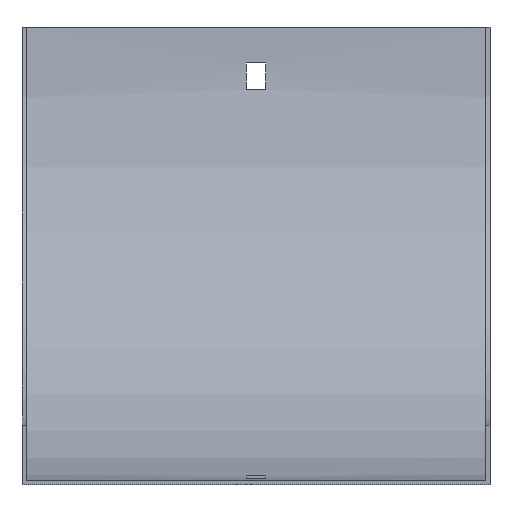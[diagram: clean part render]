
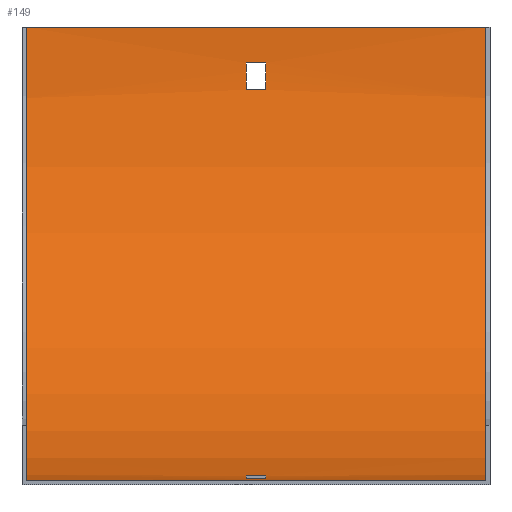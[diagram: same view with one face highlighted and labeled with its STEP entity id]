
A CAD part, front view. The second image highlights one B-rep face of the part: STEP entity #149.
In plain terms, the highlighted cylindrical face has radius 152 mm (diameter 304 mm), a partial arc.
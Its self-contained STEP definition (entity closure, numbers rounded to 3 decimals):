
#4 = CARTESIAN_POINT ( 'NONE',  ( -3.25, -153.5, 0. ) ) ;
#5 = VERTEX_POINT ( 'NONE', #164 ) ;
#15 = EDGE_CURVE ( 'NONE', #539, #490, #204, .T. ) ;
#21 = CARTESIAN_POINT ( 'NONE',  ( 78.5, -1.974, -12. ) ) ;
#22 = CARTESIAN_POINT ( 'NONE',  ( -77., -1.5, 0. ) ) ;
#26 = VERTEX_POINT ( 'NONE', #74 ) ;
#28 = CARTESIAN_POINT ( 'NONE',  ( 77., -153.5, -152. ) ) ;
#34 = FACE_OUTER_BOUND ( 'NONE', #506, .T. ) ;
#46 = FACE_BOUND ( 'NONE', #334, .T. ) ;
#49 = ORIENTED_EDGE ( 'NONE', *, *, #541, .T. ) ;
#55 = CIRCLE ( 'NONE', #288, 152. ) ;
#56 = EDGE_LOOP ( 'NONE', ( #254, #221, #283, #49 ) ) ;
#61 = DIRECTION ( 'NONE',  ( 1., 0., 0. ) ) ;
#68 = ORIENTED_EDGE ( 'NONE', *, *, #15, .F. ) ;
#69 = CARTESIAN_POINT ( 'NONE',  ( -3.25, -153.5, 0. ) ) ;
#74 = CARTESIAN_POINT ( 'NONE',  ( 3.25, -132.5, -150.542 ) ) ;
#80 = CARTESIAN_POINT ( 'NONE',  ( -3.25, -1.974, -12. ) ) ;
#87 = DIRECTION ( 'NONE',  ( 0., 0., 1. ) ) ;
#110 = CARTESIAN_POINT ( 'NONE',  ( 78.5, -2.958, -21. ) ) ;
#112 = AXIS2_PLACEMENT_3D ( 'NONE', #4, #548, #459 ) ;
#113 = CARTESIAN_POINT ( 'NONE',  ( 3.25, -153.5, 0. ) ) ;
#116 = DIRECTION ( 'NONE',  ( -1., 0., 0. ) ) ;
#117 = ORIENTED_EDGE ( 'NONE', *, *, #157, .T. ) ;
#120 = DIRECTION ( 'NONE',  ( 1., 0., 0. ) ) ;
#122 = CIRCLE ( 'NONE', #606, 152. ) ;
#123 = ORIENTED_EDGE ( 'NONE', *, *, #390, .T. ) ;
#131 = DIRECTION ( 'NONE',  ( 0., 0., 1. ) ) ;
#148 = CARTESIAN_POINT ( 'NONE',  ( 3.25, -141.5, -151.526 ) ) ;
#149 = ADVANCED_FACE ( 'NONE', ( #46, #34, #312 ), #408, .F. ) ;
#157 = EDGE_CURVE ( 'NONE', #539, #585, #421, .T. ) ;
#159 = LINE ( 'NONE', #21, #586 ) ;
#163 = DIRECTION ( 'NONE',  ( 0., 0., -1. ) ) ;
#164 = CARTESIAN_POINT ( 'NONE',  ( -3.25, -141.5, -151.526 ) ) ;
#165 = DIRECTION ( 'NONE',  ( 0., 0., 1. ) ) ;
#194 = CIRCLE ( 'NONE', #112, 152. ) ;
#202 = VERTEX_POINT ( 'NONE', #148 ) ;
#204 = LINE ( 'NONE', #399, #264 ) ;
#206 = DIRECTION ( 'NONE',  ( 0., 0., -1. ) ) ;
#213 = VECTOR ( 'NONE', #61, 1000. ) ;
#220 = CARTESIAN_POINT ( 'NONE',  ( 78.5, -141.5, -151.526 ) ) ;
#221 = ORIENTED_EDGE ( 'NONE', *, *, #553, .T. ) ;
#225 = DIRECTION ( 'NONE',  ( -1., 0., 0. ) ) ;
#226 = DIRECTION ( 'NONE',  ( -1., 0., 0. ) ) ;
#233 = DIRECTION ( 'NONE',  ( 1., 0., 0. ) ) ;
#237 = CARTESIAN_POINT ( 'NONE',  ( 78.5, -153.5, 0. ) ) ;
#254 = ORIENTED_EDGE ( 'NONE', *, *, #569, .T. ) ;
#257 = LINE ( 'NONE', #220, #498 ) ;
#259 = CARTESIAN_POINT ( 'NONE',  ( 77., -1.5, 0. ) ) ;
#264 = VECTOR ( 'NONE', #543, 1000. ) ;
#273 = CARTESIAN_POINT ( 'NONE',  ( 77., -1.5, 0. ) ) ;
#275 = VECTOR ( 'NONE', #226, 1000. ) ;
#283 = ORIENTED_EDGE ( 'NONE', *, *, #380, .T. ) ;
#288 = AXIS2_PLACEMENT_3D ( 'NONE', #493, #305, #163 ) ;
#293 = VERTEX_POINT ( 'NONE', #297 ) ;
#297 = CARTESIAN_POINT ( 'NONE',  ( 3.25, -1.974, -12. ) ) ;
#303 = EDGE_CURVE ( 'NONE', #428, #475, #486, .T. ) ;
#305 = DIRECTION ( 'NONE',  ( 1., 0., 0. ) ) ;
#312 = FACE_BOUND ( 'NONE', #56, .T. ) ;
#318 = ORIENTED_EDGE ( 'NONE', *, *, #596, .F. ) ;
#330 = ORIENTED_EDGE ( 'NONE', *, *, #533, .F. ) ;
#332 = VERTEX_POINT ( 'NONE', #409 ) ;
#334 = EDGE_LOOP ( 'NONE', ( #563, #485, #330, #603 ) ) ;
#339 = CIRCLE ( 'NONE', #545, 152. ) ;
#348 = CARTESIAN_POINT ( 'NONE',  ( -77., -153.5, 0. ) ) ;
#354 = DIRECTION ( 'NONE',  ( -1., 0., 0. ) ) ;
#380 = EDGE_CURVE ( 'NONE', #332, #26, #517, .T. ) ;
#390 = EDGE_CURVE ( 'NONE', #585, #589, #555, .T. ) ;
#399 = CARTESIAN_POINT ( 'NONE',  ( 77., -153.5, -152. ) ) ;
#408 = CYLINDRICAL_SURFACE ( 'NONE', #512, 152. ) ;
#409 = CARTESIAN_POINT ( 'NONE',  ( -3.25, -132.5, -150.542 ) ) ;
#412 = CARTESIAN_POINT ( 'NONE',  ( 77., -153.5, 0. ) ) ;
#421 = CIRCLE ( 'NONE', #460, 152. ) ;
#425 = EDGE_CURVE ( 'NONE', #452, #428, #194, .T. ) ;
#428 = VERTEX_POINT ( 'NONE', #463 ) ;
#437 = CIRCLE ( 'NONE', #484, 152. ) ;
#439 = DIRECTION ( 'NONE',  ( 0., 0., 1. ) ) ;
#445 = DIRECTION ( 'NONE',  ( -1., 0., 0. ) ) ;
#447 = VECTOR ( 'NONE', #233, 1000. ) ;
#452 = VERTEX_POINT ( 'NONE', #80 ) ;
#459 = DIRECTION ( 'NONE',  ( 0., 0., 1. ) ) ;
#460 = AXIS2_PLACEMENT_3D ( 'NONE', #412, #597, #131 ) ;
#463 = CARTESIAN_POINT ( 'NONE',  ( -3.25, -2.958, -21. ) ) ;
#475 = VERTEX_POINT ( 'NONE', #562 ) ;
#484 = AXIS2_PLACEMENT_3D ( 'NONE', #348, #120, #439 ) ;
#485 = ORIENTED_EDGE ( 'NONE', *, *, #519, .F. ) ;
#486 = LINE ( 'NONE', #110, #213 ) ;
#490 = VERTEX_POINT ( 'NONE', #538 ) ;
#493 = CARTESIAN_POINT ( 'NONE',  ( 3.25, -153.5, 0. ) ) ;
#498 = VECTOR ( 'NONE', #445, 1000. ) ;
#506 = EDGE_LOOP ( 'NONE', ( #318, #68, #117, #123 ) ) ;
#507 = CARTESIAN_POINT ( 'NONE',  ( 78.5, -132.5, -150.542 ) ) ;
#512 = AXIS2_PLACEMENT_3D ( 'NONE', #237, #225, #87 ) ;
#517 = LINE ( 'NONE', #507, #447 ) ;
#519 = EDGE_CURVE ( 'NONE', #293, #452, #159, .T. ) ;
#533 = EDGE_CURVE ( 'NONE', #475, #293, #55, .T. ) ;
#538 = CARTESIAN_POINT ( 'NONE',  ( -77., -153.5, -152. ) ) ;
#539 = VERTEX_POINT ( 'NONE', #28 ) ;
#541 = EDGE_CURVE ( 'NONE', #26, #202, #122, .T. ) ;
#543 = DIRECTION ( 'NONE',  ( -1., 0., 0. ) ) ;
#544 = DIRECTION ( 'NONE',  ( 1., 0., 0. ) ) ;
#545 = AXIS2_PLACEMENT_3D ( 'NONE', #69, #544, #206 ) ;
#548 = DIRECTION ( 'NONE',  ( -1., 0., 0. ) ) ;
#553 = EDGE_CURVE ( 'NONE', #5, #332, #339, .T. ) ;
#555 = LINE ( 'NONE', #273, #275 ) ;
#562 = CARTESIAN_POINT ( 'NONE',  ( 3.25, -2.958, -21. ) ) ;
#563 = ORIENTED_EDGE ( 'NONE', *, *, #425, .F. ) ;
#569 = EDGE_CURVE ( 'NONE', #202, #5, #257, .T. ) ;
#585 = VERTEX_POINT ( 'NONE', #259 ) ;
#586 = VECTOR ( 'NONE', #116, 1000. ) ;
#589 = VERTEX_POINT ( 'NONE', #22 ) ;
#596 = EDGE_CURVE ( 'NONE', #490, #589, #437, .T. ) ;
#597 = DIRECTION ( 'NONE',  ( 1., 0., 0. ) ) ;
#603 = ORIENTED_EDGE ( 'NONE', *, *, #303, .F. ) ;
#606 = AXIS2_PLACEMENT_3D ( 'NONE', #113, #354, #165 ) ;
